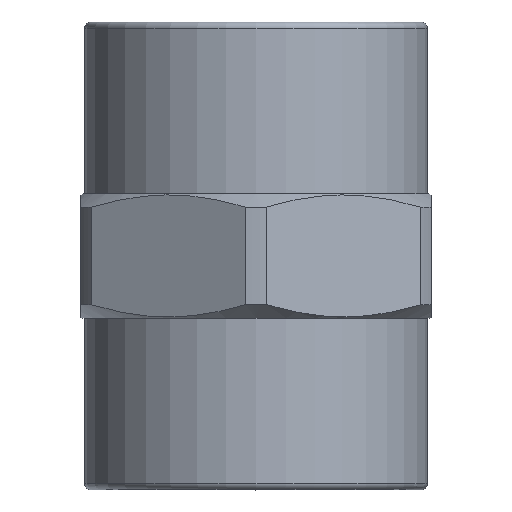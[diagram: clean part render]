
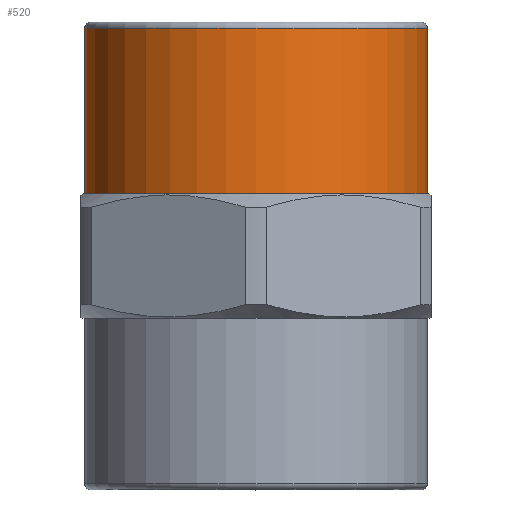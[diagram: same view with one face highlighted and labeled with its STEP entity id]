
A CAD part, top view. The second image highlights one B-rep face of the part: STEP entity #520.
In plain terms, the highlighted cylindrical face has radius 6.985 mm (diameter 13.97 mm), a full revolution.
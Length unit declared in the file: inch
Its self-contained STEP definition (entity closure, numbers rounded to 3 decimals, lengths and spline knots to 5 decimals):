
#31=CYLINDRICAL_SURFACE('',#600,0.275);
#66=CIRCLE('',#594,0.275);
#67=CIRCLE('',#595,0.275);
#68=CIRCLE('',#597,0.275);
#70=CIRCLE('',#599,0.275);
#105=FACE_OUTER_BOUND('',#138,.T.);
#138=EDGE_LOOP('',(#453,#454,#455,#456,#457,#458));
#164=LINE('',#946,#185);
#185=VECTOR('',#755,0.275);
#244=VERTEX_POINT('',#935);
#245=VERTEX_POINT('',#936);
#246=VERTEX_POINT('',#940);
#247=VERTEX_POINT('',#941);
#316=EDGE_CURVE('',#244,#245,#66,.T.);
#317=EDGE_CURVE('',#245,#244,#67,.T.);
#318=EDGE_CURVE('',#246,#247,#68,.T.);
#320=EDGE_CURVE('',#247,#246,#70,.T.);
#321=EDGE_CURVE('',#245,#247,#164,.T.);
#453=ORIENTED_EDGE('',*,*,#316,.F.);
#454=ORIENTED_EDGE('',*,*,#317,.F.);
#455=ORIENTED_EDGE('',*,*,#321,.T.);
#456=ORIENTED_EDGE('',*,*,#318,.F.);
#457=ORIENTED_EDGE('',*,*,#320,.F.);
#458=ORIENTED_EDGE('',*,*,#321,.F.);
#520=ADVANCED_FACE('',(#105),#31,.T.);
#594=AXIS2_PLACEMENT_3D('',#937,#741,#742);
#595=AXIS2_PLACEMENT_3D('',#938,#743,#744);
#597=AXIS2_PLACEMENT_3D('',#942,#747,#748);
#599=AXIS2_PLACEMENT_3D('',#944,#751,#752);
#600=AXIS2_PLACEMENT_3D('',#945,#753,#754);
#741=DIRECTION('center_axis',(0.,-1.,0.));
#742=DIRECTION('ref_axis',(1.,0.,0.));
#743=DIRECTION('center_axis',(0.,-1.,0.));
#744=DIRECTION('ref_axis',(1.,0.,0.));
#747=DIRECTION('center_axis',(0.,1.,0.));
#748=DIRECTION('ref_axis',(0.,0.,1.));
#751=DIRECTION('center_axis',(0.,1.,0.));
#752=DIRECTION('ref_axis',(0.,0.,1.));
#753=DIRECTION('center_axis',(0.,-1.,0.));
#754=DIRECTION('ref_axis',(0.,0.,-1.));
#755=DIRECTION('',(0.,1.,0.));
#935=CARTESIAN_POINT('',(0.,0.475,-0.275));
#936=CARTESIAN_POINT('',(0.,0.475,0.275));
#937=CARTESIAN_POINT('Origin',(0.,0.475,0.));
#938=CARTESIAN_POINT('Origin',(0.,0.475,0.));
#940=CARTESIAN_POINT('',(0.,0.74,-0.275));
#941=CARTESIAN_POINT('',(0.,0.74,0.275));
#942=CARTESIAN_POINT('Origin',(0.,0.74,0.));
#944=CARTESIAN_POINT('Origin',(0.,0.74,0.));
#945=CARTESIAN_POINT('Origin',(0.,0.6125,0.));
#946=CARTESIAN_POINT('',(0.,0.6125,0.275));
